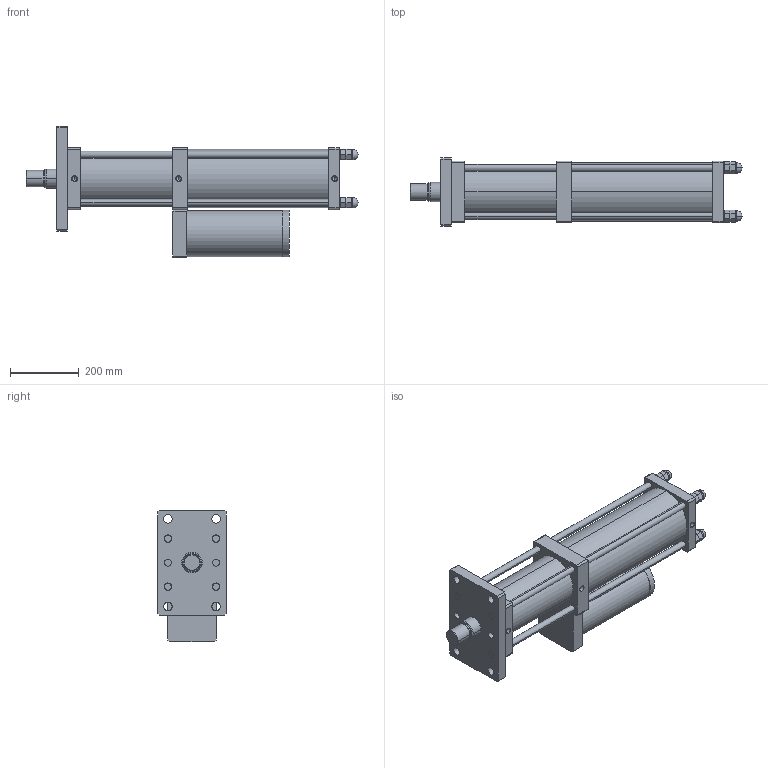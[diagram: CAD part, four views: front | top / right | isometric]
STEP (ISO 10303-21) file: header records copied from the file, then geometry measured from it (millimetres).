
FILE_DESCRIPTION (( 'STEP AP203' ), '1' );
FILE_NAME ('CPT-125-100-20-20T.STEP', '2016-03-12T01:55:12', ( 'WIN' ), ( '' ), 'SwSTEP 2.0', 'SolidWorks 2014', '' );
FILE_SCHEMA (( 'CONFIG_CONTROL_DESIGN' ));
Length unit declared in the file: millimetre
Products named in the file (1): CPT-125-100-20-20T
Bounding box: 966 x 200 x 382.5 mm (x, y, z)
Volume: 21737839.4 mm3; surface area: 1389519.7 mm2
Topology: 17 solids, 17 shells, 318 faces, 726 edges, 454 vertices
Faces by surface type: plane 154, cylinder 122, cone 30, sphere 8, torus 4
Entity records: 8889 total; most frequent: DIRECTION 1638, CARTESIAN_POINT 1467, ORIENTED_EDGE 1404, EDGE_CURVE 702, AXIS2_PLACEMENT_3D 617, VERTEX_POINT 446, LINE 404, VECTOR 404
